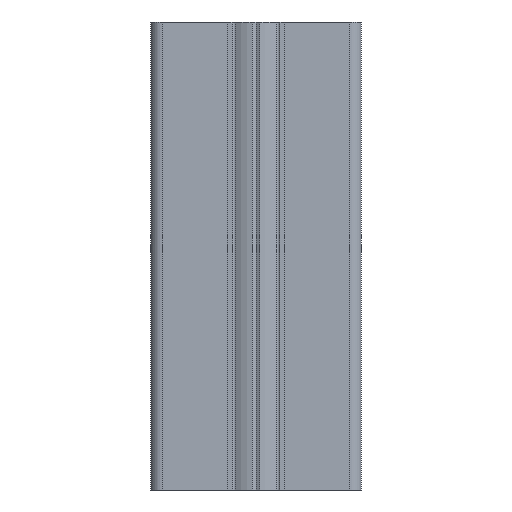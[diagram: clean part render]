
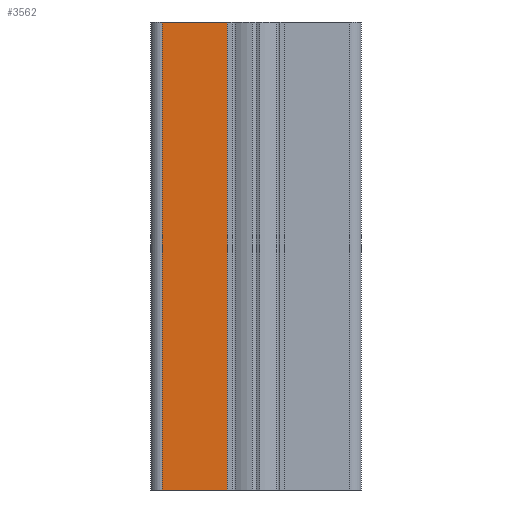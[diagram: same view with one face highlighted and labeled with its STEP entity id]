
A CAD part, front view. The second image highlights one B-rep face of the part: STEP entity #3562.
In plain terms, the highlighted planar face has unit normal (0, -1, 0).
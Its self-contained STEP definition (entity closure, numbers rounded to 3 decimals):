
#3506=CARTESIAN_POINT('',(-6.07,-22.568,100.0));
#3507=VERTEX_POINT('',#3506);
#3514=CARTESIAN_POINT('',(-6.07,-22.568,0.0));
#3515=VERTEX_POINT('',#3514);
#3516=CARTESIAN_POINT('',(-6.07,-22.568,0.0));
#3517=DIRECTION('',(0.0,0.0,1.0));
#3518=VECTOR('',#3517,100.0);
#3519=LINE('',#3516,#3518);
#3520=EDGE_CURVE('',#3515,#3507,#3519,.T.);
#3532=CARTESIAN_POINT('',(-6.07,-22.568,0.0));
#3533=DIRECTION('',(0.0,-1.0,0.0));
#3534=DIRECTION('',(0.0,0.0,-1.0));
#3535=AXIS2_PLACEMENT_3D('',#3532,#3533,#3534);
#3536=PLANE('',#3535);
#3537=CARTESIAN_POINT('',(-19.97,-22.568,100.0));
#3538=VERTEX_POINT('',#3537);
#3539=CARTESIAN_POINT('',(-6.07,-22.568,100.0));
#3540=DIRECTION('',(-1.0,0.0,0.0));
#3541=VECTOR('',#3540,13.9);
#3542=LINE('',#3539,#3541);
#3543=EDGE_CURVE('',#3507,#3538,#3542,.T.);
#3544=ORIENTED_EDGE('',*,*,#3543,.T.);
#3545=CARTESIAN_POINT('',(-19.97,-22.568,0.0));
#3546=VERTEX_POINT('',#3545);
#3547=CARTESIAN_POINT('',(-19.97,-22.568,0.0));
#3548=DIRECTION('',(0.0,0.0,1.0));
#3549=VECTOR('',#3548,100.0);
#3550=LINE('',#3547,#3549);
#3551=EDGE_CURVE('',#3546,#3538,#3550,.T.);
#3552=ORIENTED_EDGE('',*,*,#3551,.F.);
#3553=CARTESIAN_POINT('',(-19.97,-22.568,0.0));
#3554=DIRECTION('',(1.0,0.0,0.0));
#3555=VECTOR('',#3554,13.9);
#3556=LINE('',#3553,#3555);
#3557=EDGE_CURVE('',#3546,#3515,#3556,.T.);
#3558=ORIENTED_EDGE('',*,*,#3557,.T.);
#3559=ORIENTED_EDGE('',*,*,#3520,.T.);
#3560=EDGE_LOOP('',(#3544,#3552,#3558,#3559));
#3561=FACE_OUTER_BOUND('',#3560,.T.);
#3562=ADVANCED_FACE('',(#3561),#3536,.T.);
